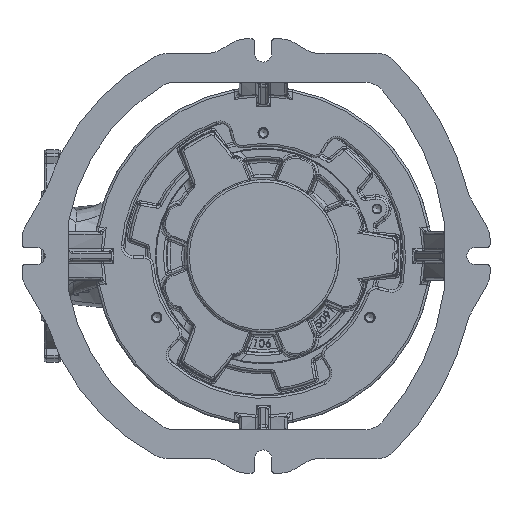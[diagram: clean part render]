
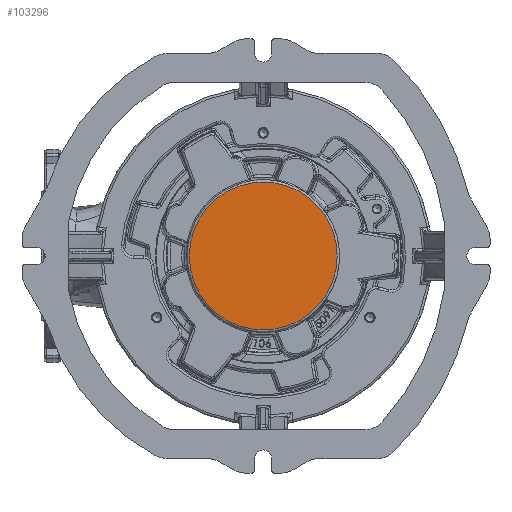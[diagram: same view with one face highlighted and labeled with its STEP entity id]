
A CAD part, front view. The second image highlights one B-rep face of the part: STEP entity #103296.
In plain terms, the highlighted planar face has unit normal (0, -1, 0).
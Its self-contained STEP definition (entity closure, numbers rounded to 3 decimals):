
#13339 = AXIS2_PLACEMENT_3D ( 'NONE', #95032, #41140, #50322 ) ;
#13784 = EDGE_CURVE ( 'NONE', #64019, #64019, #58302, .T. ) ;
#16822 = CARTESIAN_POINT ( 'NONE',  ( 0., -28.5, -76.628 ) ) ;
#41140 = DIRECTION ( 'NONE',  ( 0., -1., 0. ) ) ;
#50322 = DIRECTION ( 'NONE',  ( -1., 0., 0. ) ) ;
#55604 = FACE_OUTER_BOUND ( 'NONE', #75929, .T. ) ;
#57214 = AXIS2_PLACEMENT_3D ( 'NONE', #87967, #112813, #60530 ) ;
#58302 = CIRCLE ( 'NONE', #57214, 76.628 ) ;
#60530 = DIRECTION ( 'NONE',  ( 0., 0., -1. ) ) ;
#64019 = VERTEX_POINT ( 'NONE', #16822 ) ;
#67948 = PLANE ( 'NONE',  #13339 ) ;
#75929 = EDGE_LOOP ( 'NONE', ( #113239 ) ) ;
#87967 = CARTESIAN_POINT ( 'NONE',  ( 0., -28.5, 0. ) ) ;
#95032 = CARTESIAN_POINT ( 'NONE',  ( 0., -28.5, 5.886 ) ) ;
#103296 = ADVANCED_FACE ( 'NONE', ( #55604 ), #67948, .T. ) ;
#112813 = DIRECTION ( 'NONE',  ( 0., -1., 0. ) ) ;
#113239 = ORIENTED_EDGE ( 'NONE', *, *, #13784, .T. ) ;
